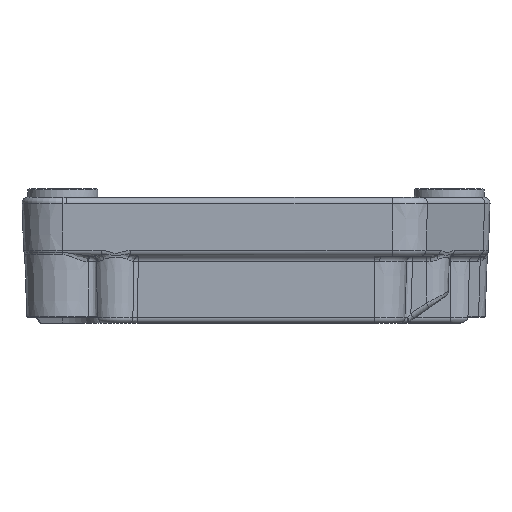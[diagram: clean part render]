
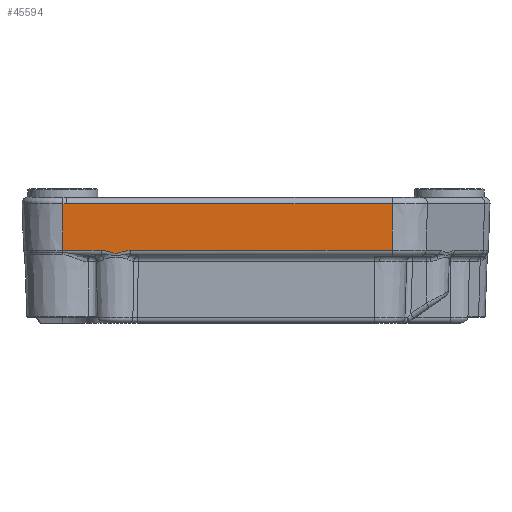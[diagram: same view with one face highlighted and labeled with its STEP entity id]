
A CAD part, front view. The second image highlights one B-rep face of the part: STEP entity #45594.
In plain terms, the highlighted planar face has unit normal (0, -0.999, -0.035).
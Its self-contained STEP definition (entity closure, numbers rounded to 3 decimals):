
#1526 = CARTESIAN_POINT ( 'NONE',  ( -32.783, -29.964, 20.466 ) ) ;
#2020 = CARTESIAN_POINT ( 'NONE',  ( -25.623, -29.681, 12.37 ) ) ;
#2178 = CARTESIAN_POINT ( 'NONE',  ( -21.438, -29.684, 12.465 ) ) ;
#4741 = CARTESIAN_POINT ( 'NONE',  ( 23.257, -29.964, 20.465 ) ) ;
#5975 = CARTESIAN_POINT ( 'NONE',  ( -24.81, -29.673, 12.132 ) ) ;
#6914 = DIRECTION ( 'NONE',  ( 0., 0.035, -0.999 ) ) ;
#7974 = EDGE_LOOP ( 'NONE', ( #41377, #9057, #45968, #9140, #27494, #34772, #21540 ) ) ;
#9057 = ORIENTED_EDGE ( 'NONE', *, *, #9379, .T. ) ;
#9140 = ORIENTED_EDGE ( 'NONE', *, *, #15516, .T. ) ;
#9379 = EDGE_CURVE ( 'NONE', #49451, #21541, #42489, .T. ) ;
#9941 = CARTESIAN_POINT ( 'NONE',  ( -24.195, -29.668, 11.985 ) ) ;
#10789 = CARTESIAN_POINT ( 'NONE',  ( -33., -29.684, 12.465 ) ) ;
#13946 = EDGE_CURVE ( 'NONE', #30734, #49451, #19984, .T. ) ;
#13952 = CARTESIAN_POINT ( 'NONE',  ( -23.766, -29.668, 11.987 ) ) ;
#14810 = CARTESIAN_POINT ( 'NONE',  ( -33., -29.964, 20.466 ) ) ;
#15516 = EDGE_CURVE ( 'NONE', #25766, #19246, #24797, .T. ) ;
#15965 = EDGE_CURVE ( 'NONE', #44413, #30734, #27197, .T. ) ;
#16832 = CARTESIAN_POINT ( 'NONE',  ( -26.462, -29.684, 12.465 ) ) ;
#17246 = CARTESIAN_POINT ( 'NONE',  ( -32.348, -29.964, 20.465 ) ) ;
#17914 = CARTESIAN_POINT ( 'NONE',  ( -23.444, -29.67, 12.041 ) ) ;
#18666 = PLANE ( 'NONE',  #41070 ) ;
#18687 = CARTESIAN_POINT ( 'NONE',  ( -33., -29.684, 12.465 ) ) ;
#18809 = LINE ( 'NONE', #10789, #26816 ) ;
#19097 = B_SPLINE_CURVE_WITH_KNOTS ( 'NONE', 3,
 ( #17246, #21029, #1526, #29125 ),
 .UNSPECIFIED., .F., .F.,
 ( 4, 4 ),
 ( 0., 0.001 ),
 .UNSPECIFIED. ) ;
#19246 = VERTEX_POINT ( 'NONE', #29424 ) ;
#19582 = VERTEX_POINT ( 'NONE', #16832 ) ;
#19984 = LINE ( 'NONE', #41624, #50122 ) ;
#20347 = VECTOR ( 'NONE', #38336, 1000. ) ;
#21029 = CARTESIAN_POINT ( 'NONE',  ( -32.565, -29.964, 20.465 ) ) ;
#21540 = ORIENTED_EDGE ( 'NONE', *, *, #15965, .T. ) ;
#21541 = VERTEX_POINT ( 'NONE', #23494 ) ;
#21861 = CARTESIAN_POINT ( 'NONE',  ( -22.921, -29.675, 12.186 ) ) ;
#23494 = CARTESIAN_POINT ( 'NONE',  ( -32.348, -29.964, 20.465 ) ) ;
#23548 = VECTOR ( 'NONE', #33372, 1000. ) ;
#24797 = LINE ( 'NONE', #33201, #23548 ) ;
#25766 = VERTEX_POINT ( 'NONE', #14810 ) ;
#25829 = CARTESIAN_POINT ( 'NONE',  ( -21.874, -29.684, 12.465 ) ) ;
#26425 = CARTESIAN_POINT ( 'NONE',  ( -33., -30., 21.5 ) ) ;
#26816 = VECTOR ( 'NONE', #38188, 1000. ) ;
#27197 = LINE ( 'NONE', #18687, #49332 ) ;
#27494 = ORIENTED_EDGE ( 'NONE', *, *, #40907, .T. ) ;
#29125 = CARTESIAN_POINT ( 'NONE',  ( -33., -29.964, 20.466 ) ) ;
#29424 = CARTESIAN_POINT ( 'NONE',  ( -33., -29.684, 12.465 ) ) ;
#29616 = CARTESIAN_POINT ( 'NONE',  ( -25.013, -29.675, 12.196 ) ) ;
#29948 = DIRECTION ( 'NONE',  ( 0., -0.035, 0.999 ) ) ;
#30546 = DIRECTION ( 'NONE',  ( 0., -0.999, -0.035 ) ) ;
#30734 = VERTEX_POINT ( 'NONE', #34389 ) ;
#30791 = B_SPLINE_CURVE_WITH_KNOTS ( 'NONE', 3,
 ( #45245, #41306, #2020, #29616, #5975, #33570, #9941, #37533, #13952, #41466, #17914, #45411, #21861, #49369, #25829, #2178 ),
 .UNSPECIFIED., .F., .F.,
 ( 4, 2, 2, 2, 2, 2, 2, 4 ),
 ( 0., 0.001, 0.002, 0.003, 0.003, 0.003, 0.004, 0.005 ),
 .UNSPECIFIED. ) ;
#33201 = CARTESIAN_POINT ( 'NONE',  ( -33., -30., 21.5 ) ) ;
#33372 = DIRECTION ( 'NONE',  ( 0., 0.035, -0.999 ) ) ;
#33570 = CARTESIAN_POINT ( 'NONE',  ( -24.401, -29.669, 12.026 ) ) ;
#34389 = CARTESIAN_POINT ( 'NONE',  ( 23.257, -29.684, 12.465 ) ) ;
#34772 = ORIENTED_EDGE ( 'NONE', *, *, #49108, .T. ) ;
#36078 = FACE_OUTER_BOUND ( 'NONE', #7974, .T. ) ;
#37533 = CARTESIAN_POINT ( 'NONE',  ( -23.875, -29.668, 11.979 ) ) ;
#37546 = EDGE_CURVE ( 'NONE', #21541, #25766, #19097, .T. ) ;
#38188 = DIRECTION ( 'NONE',  ( 1., 0., 0. ) ) ;
#38323 = DIRECTION ( 'NONE',  ( 1., 0., 0. ) ) ;
#38336 = DIRECTION ( 'NONE',  ( -1., 0., 0. ) ) ;
#40907 = EDGE_CURVE ( 'NONE', #19246, #19582, #18809, .T. ) ;
#41070 = AXIS2_PLACEMENT_3D ( 'NONE', #26425, #30546, #6914 ) ;
#41306 = CARTESIAN_POINT ( 'NONE',  ( -26.034, -29.684, 12.465 ) ) ;
#41377 = ORIENTED_EDGE ( 'NONE', *, *, #13946, .T. ) ;
#41466 = CARTESIAN_POINT ( 'NONE',  ( -23.55, -29.669, 12.018 ) ) ;
#41624 = CARTESIAN_POINT ( 'NONE',  ( 23.257, -30., 21.5 ) ) ;
#42489 = LINE ( 'NONE', #50002, #20347 ) ;
#44413 = VERTEX_POINT ( 'NONE', #48389 ) ;
#45245 = CARTESIAN_POINT ( 'NONE',  ( -26.462, -29.684, 12.465 ) ) ;
#45411 = CARTESIAN_POINT ( 'NONE',  ( -23.129, -29.672, 12.121 ) ) ;
#45594 = ADVANCED_FACE ( 'NONE', ( #36078 ), #18666, .T. ) ;
#45968 = ORIENTED_EDGE ( 'NONE', *, *, #37546, .T. ) ;
#48389 = CARTESIAN_POINT ( 'NONE',  ( -21.438, -29.684, 12.465 ) ) ;
#49108 = EDGE_CURVE ( 'NONE', #19582, #44413, #30791, .T. ) ;
#49332 = VECTOR ( 'NONE', #38323, 1000. ) ;
#49369 = CARTESIAN_POINT ( 'NONE',  ( -22.296, -29.681, 12.365 ) ) ;
#49451 = VERTEX_POINT ( 'NONE', #4741 ) ;
#50002 = CARTESIAN_POINT ( 'NONE',  ( -33., -29.964, 20.465 ) ) ;
#50122 = VECTOR ( 'NONE', #29948, 1000. ) ;
